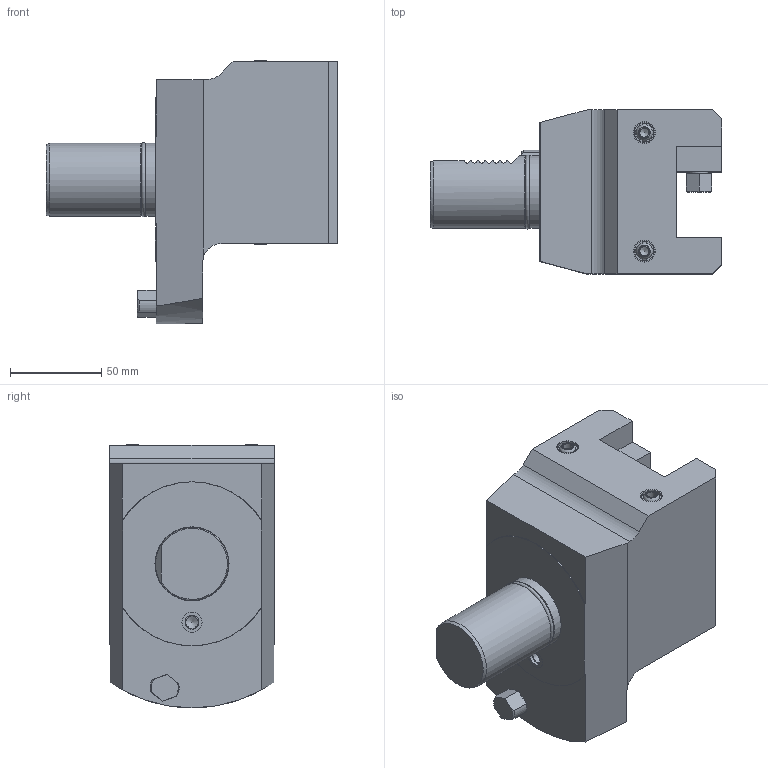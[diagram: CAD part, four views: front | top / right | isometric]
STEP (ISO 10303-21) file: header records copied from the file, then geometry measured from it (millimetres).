
FILE_DESCRIPTION(/* description */ (''),/* implementation_level */ '2;1');
FILE_NAME(/* name */ '193521',/* time_stamp */ '2020-11-17T07:12:42+01:00',/* author */ (''),/* organization */ (''),/* preprocessor_version */ 'ST-DEVELOPER v16.5',/* originating_system */ 'HiCAD 2017 2201.0 Build 268',/* authorisation */ '');
FILE_SCHEMA (('AUTOMOTIVE_DESIGN { 1 0 10303 214 1 1 1 1 }'));
Length unit declared in the file: millimetre
Products named in the file (47): Root; Leeres Teil; 197277_SPRITZDUESE TIKT M12X1-M6_350; DIN 13-M12x1; KUGEL_0; DIN 13-M6; TORUS_0; 113942_O-Ring 36x2_330; 173501_Kantsealring 7.65x1.68_331; 00021672_110*; Gruppe ; DIN 912      (Innensechskant)_Zylinderschraube 6x25_400*; GEWINDE; 130249_Schraube M12 SW14_130*; T;; ̈́֔; 00087070_120; ZYLINDER_0_100; DIN 76-M6; DIN 76-M12x1
Assembly tree (46 placements, depth 7):
  Root
    Leeres Teil
      Leeres Teil
        Leeres Teil
          197277_SPRITZDUESE TIKT M12X1-M6_350
            DIN 13-M12x1
            KUGEL_0
              DIN 13-M6
            TORUS_0
          197277_SPRITZDUESE TIKT M12X1-M6_350
            DIN 13-M12x1
            KUGEL_0
              DIN 13-M6
            TORUS_0
        Leeres Teil
          197277_SPRITZDUESE TIKT M12X1-M6_350
            DIN 13-M12x1
            KUGEL_0
              DIN 13-M6
            TORUS_0
          197277_SPRITZDUESE TIKT M12X1-M6_350
            DIN 13-M12x1
            KUGEL_0
              DIN 13-M6
            TORUS_0
        113942_O-Ring 36x2_330
        173501_Kantsealring 7.65x1.68_331
      Leeres Teil
        00021672_110*
        Gruppe 
          DIN 912      (Innensechskant)_Zylinderschraube 6x25_400*
            GEWINDE
          DIN 912      (Innensechskant)_Zylinderschraube 6x25_400*
            GEWINDE
        Gruppe 
          130249_Schraube M12 SW14_130*
            (unnamed)
          130249_Schraube M12 SW14_130*
            T;
          130249_Schraube M12 SW14_130*
            ̈́֔
      00087070_120
      ZYLINDER_0_100
        DIN 76-M6
        DIN 76-M6
        DIN 76-M12x1
        DIN 76-M12x1
Bounding box: 160 x 90 x 144.66 mm (x, y, z)
Volume: 912630.7 mm3; surface area: 98293.8 mm2
Topology: 42 solids, 42 shells, 475 faces, 1162 edges, 766 vertices
Faces by surface type: plane 287, cylinder 106, cone 64, torus 10, sphere 8
Full cylindrical faces by diameter (mm): 5 x20, 6 x24, 6.6 x2, 6.8 x1, 7.65 x1, 9.6 x3, 9.92 x4, 10 x2, 11 x18, 11.01 x1, 11.1 x1, 12 x12, 36.5 x1, 40 x2
Entity records: 26097 total; most frequent: CARTESIAN_POINT 4949, DIRECTION 2602, PRESENTATION_STYLE_ASSIGNMENT 1926, COLOUR_RGB 1896, DRAUGHTING_PRE_DEFINED_CURVE_FONT 1892, CURVE_STYLE 1892, OVER_RIDING_STYLED_ITEM 1892, ORIENTED_EDGE 1892
